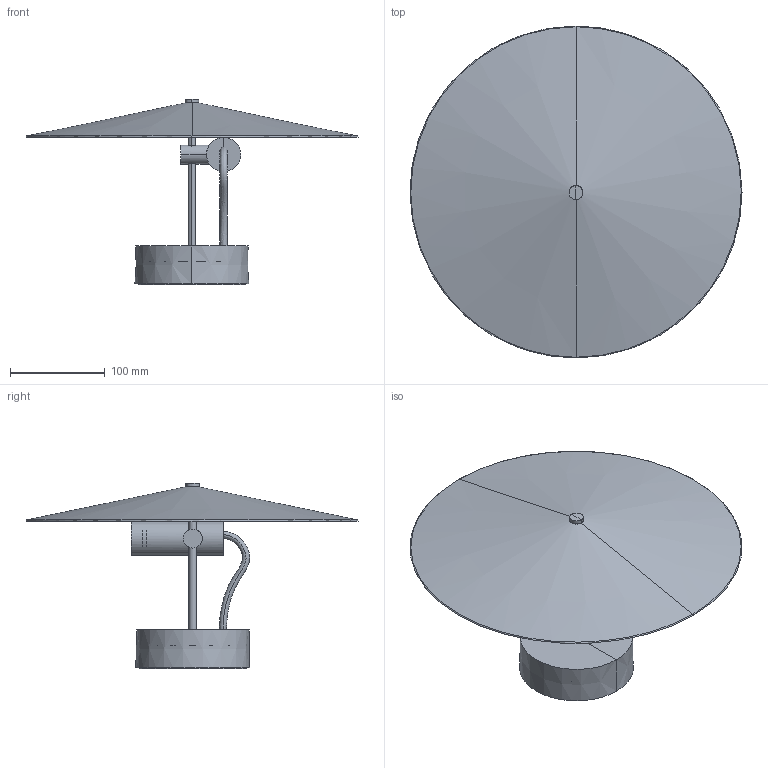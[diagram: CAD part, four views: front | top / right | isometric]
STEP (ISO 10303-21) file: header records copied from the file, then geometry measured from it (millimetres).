
FILE_DESCRIPTION(/* description */ (''),/* implementation_level */ '2;1');
FILE_NAME(/* name */ 'clap_walllamp_ceiling_screen.step',/* time_stamp */ '2025-02-25T13:43:08+01:00',/* author */ ('RenataManzini'),/* organization */ (''),/* preprocessor_version */ 'ST-DEVELOPER v20',/* originating_system */ 'AutoCAD Mechanical',/* authorisation */ '');
FILE_SCHEMA (('AUTOMOTIVE_DESIGN { 1 0 10303 214 3 1 1 }'));
Length unit declared in the file: millimetre
Products named in the file (6): Product; FamilyGeomCombination_473061-Export; FamilyGeomCombination_473062-Export; FamilyGeomCombination_473064-Export; Fotometrica_Base - Fotometrica_Base-474871-Export; CLAP_ pantalla_s - CLAP Accesorio pantalla S negro-477062-Export
Assembly tree (5 placements, depth 2):
  Product
    FamilyGeomCombination_473061-Export
    FamilyGeomCombination_473062-Export
    FamilyGeomCombination_473064-Export
    Fotometrica_Base - Fotometrica_Base-474871-Export
    CLAP_ pantalla_s - CLAP Accesorio pantalla S negro-477062-Export
Bounding box: 349.98 x 349.98 x 195.8 mm (x, y, z)
Volume: 361741 mm3; surface area: 313402 mm2
Topology: 7 solids, 7 shells, 85 faces, 157 edges, 87 vertices
Faces by surface type: plane 41, cylinder 22, cone 18, torus 2, bspline 2
Entity records: 3234 total; most frequent: CARTESIAN_POINT 1407, DIRECTION 400, ORIENTED_EDGE 308, AXIS2_PLACEMENT_3D 165, EDGE_CURVE 154, EDGE_LOOP 92, FACE_OUTER_BOUND 85, ADVANCED_FACE 85
